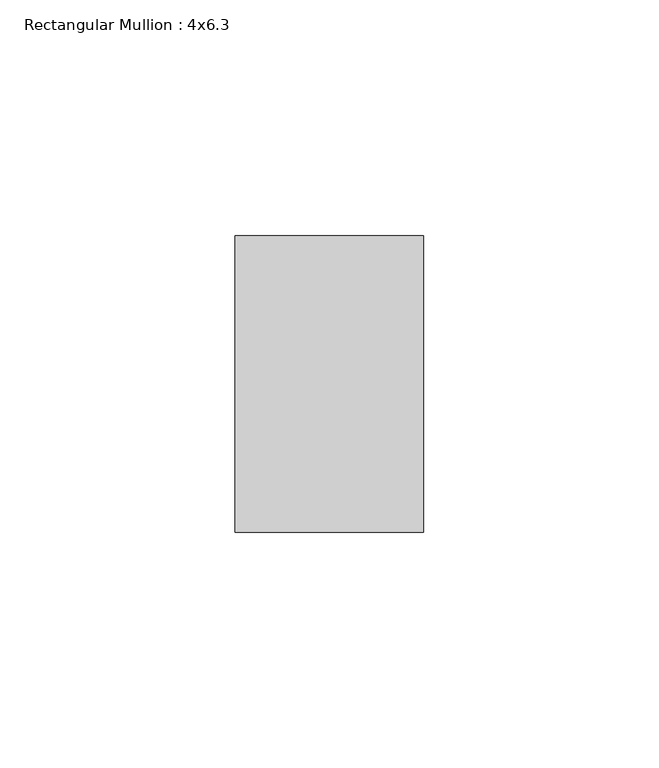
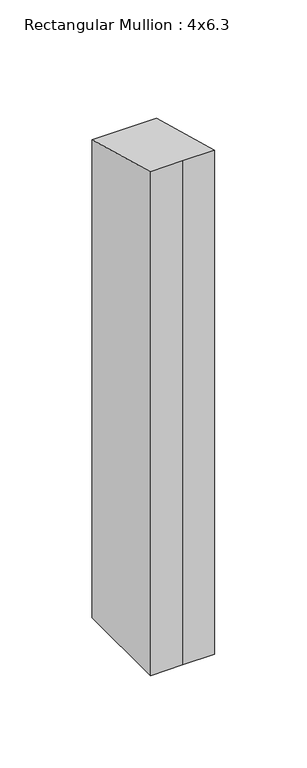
"""IFC4 building model written with IfcOpenShell, lengths in millimetres: member geometry, Rectangular Mullion : 4x6.3."""

import ifcopenshell
import ifcopenshell.guid

model = None  # the IFC model being written
_history = None  # IfcOwnerHistory: only IFC2X3 demands one
_inside = {}  # id of a spatial element -> (the spatial element, [elements in it])
_under = {}  # id of a project, library or spatial element -> (it, [spatial elements below it])
_declared = {}  # id of a project -> (the project, [libraries it declares])
_typed = {}  # id of a type object -> (the type object, [elements of that type])
_made_of = {}  # id of a material, layer set ... -> (it, [elements and type objects made of it])


def new_model(schema):
    """Start an empty IFC model of exactly this schema.

    Asked for "IFC4X3", IfcOpenShell would pick the latest addendum, in which some entities
    have other attributes; the version numbers below select the first issue.
    IFC2X3 requires an IfcOwnerHistory on every rooted entity: one is made here for all.
    """
    global model, _history
    if schema == "IFC4X3":
        model = ifcopenshell.file(schema_version=(4, 3, 0, 0))
    else:
        model = ifcopenshell.file(schema=schema)
    _inside.clear()
    _under.clear()
    _declared.clear()
    _typed.clear()
    _made_of.clear()
    _history = None
    if model.schema == "IFC2X3":
        org = make("IfcOrganization", Name="unknown")
        user = make(
            "IfcPersonAndOrganization",
            ThePerson=make("IfcPerson", FamilyName="unknown"),
            TheOrganization=org,
        )
        app = make(
            "IfcApplication",
            ApplicationDeveloper=org,
            Version="unknown",
            ApplicationFullName="unknown",
            ApplicationIdentifier="unknown",
        )
        _history = make(
            "IfcOwnerHistory",
            OwningUser=user,
            OwningApplication=app,
            ChangeAction="ADDED",
            CreationDate=0,
        )
    return model


def make(cls, **values):
    """One entity of the class cls with the attributes given. An attribute that is None is left unset."""
    return model.create_entity(
        cls, **{name: value for name, value in values.items() if value is not None}
    )


def rooted(cls, **values):
    """An entity with a GlobalId (a new one), such as an element, a storey or a relation."""
    return make(cls, GlobalId=ifcopenshell.guid.new(), OwnerHistory=_history, **values)


def si_unit(unit_type, name, prefix=None):
    """IfcSIUnit, for example si_unit("LENGTHUNIT", "METRE", prefix="MILLI")."""
    return make("IfcSIUnit", UnitType=unit_type, Prefix=prefix, Name=name)


def assignment(units):
    """IfcUnitAssignment: the units of a project."""
    return None if units is None else make("IfcUnitAssignment", Units=units)


def point(xyz):
    """IfcCartesianPoint."""
    return None if xyz is None else make("IfcCartesianPoint", Coordinates=xyz)


def direction(xyz):
    """IfcDirection."""
    return None if xyz is None else make("IfcDirection", DirectionRatios=xyz)


def frame(location, z_axis=None, x_axis=None):
    """IfcAxis2Placement3D, a coordinate frame: its origin and axes. An axis left out is left unset."""
    return make(
        "IfcAxis2Placement3D",
        Location=point(location),
        Axis=direction(z_axis),
        RefDirection=direction(x_axis),
    )


def origin():
    """The frame at (0, 0, 0) with its axes left unset."""
    return frame((0.0, 0.0, 0.0))


def place(relative_to, where):
    """IfcLocalPlacement: puts the frame where relative to a parent placement (None: the world)."""
    return make(
        "IfcLocalPlacement", PlacementRelTo=relative_to, RelativePlacement=where
    )


def context(
    kind, dimensions, precision=None, world=None, true_north=None, identifier=None
):
    """IfcGeometricRepresentationContext, for example the 3D "Model" context."""
    return make(
        "IfcGeometricRepresentationContext",
        ContextIdentifier=identifier,
        ContextType=kind,
        CoordinateSpaceDimension=dimensions,
        Precision=precision,
        WorldCoordinateSystem=world,
        TrueNorth=true_north,
    )


def project(units=None, contexts=None):
    """IfcProject with its units and contexts."""
    return rooted(
        "IfcProject",
        Name="project",
        RepresentationContexts=contexts,
        UnitsInContext=assignment(units),
    )


def spatial(cls, under=None, at=None, **own):
    """A site, building, storey or space (cls), placed at a placement, below another one or the project."""
    s = rooted(cls, ObjectPlacement=at, **own)
    if under is not None:
        _under.setdefault(under.id(), (under, []))[1].append(s)
    return s


def faces_of(points, faces, orient=None, outer=None):
    """IfcFace entities. A face is a list of loops; a loop is a list of indices into points, from 0.

    orient and outer hold one flag for each loop. By default every Orientation is true, the
    first loop of a face is its IfcFaceOuterBound and the others are IfcFaceBound.
    """
    made = []
    for i, loops in enumerate(faces):
        bounds = []
        for j, loop in enumerate(loops):
            is_outer = j == 0 if outer is None else outer[i][j]
            bounds.append(
                make(
                    "IfcFaceOuterBound" if is_outer else "IfcFaceBound",
                    Bound=make("IfcPolyLoop", Polygon=[points[k] for k in loop]),
                    Orientation=True if orient is None else orient[i][j],
                )
            )
        made.append(make("IfcFace", Bounds=bounds))
    return made


def faceted_brep(points, faces, orient=None, outer=None, voids=None):
    """IfcFacetedBrep: a solid bounded by flat faces; with voids (closed shells), ...WithVoids."""
    shared = [point(p) for p in points]
    hull = make("IfcClosedShell", CfsFaces=faces_of(shared, faces, orient, outer))
    if voids is None:
        return make("IfcFacetedBrep", Outer=hull)
    return make(
        "IfcFacetedBrepWithVoids",
        Outer=hull,
        Voids=[
            make(cls, CfsFaces=faces_of(shared, fs, o, b)) for cls, fs, o, b in voids
        ],
    )


def shape(context_of_items, identifier, shape_type, items):
    """IfcShapeRepresentation: the items that make up one representation, for example the "Body"."""
    return make(
        "IfcShapeRepresentation",
        ContextOfItems=context_of_items,
        RepresentationIdentifier=identifier,
        RepresentationType=shape_type,
        Items=items,
    )


def source(mapping_origin, context_of_items, identifier, shape_type, items):
    """IfcRepresentationMap: a shape defined once, which mapped items show again and again."""
    return make(
        "IfcRepresentationMap",
        MappingOrigin=mapping_origin,
        MappedRepresentation=shape(context_of_items, identifier, shape_type, items),
    )


def transform(
    local_origin,
    x_axis=None,
    y_axis=None,
    z_axis=None,
    scale=None,
    scale2=None,
    scale3=None,
    uniform=True,
):
    """IfcCartesianTransformationOperator3D, or its non-uniform kind. x_axis, y_axis, z_axis: its Axis1, 2, 3."""
    if uniform:
        return make(
            "IfcCartesianTransformationOperator3D",
            Axis1=direction(x_axis),
            Axis2=direction(y_axis),
            LocalOrigin=point(local_origin),
            Scale=scale,
            Axis3=direction(z_axis),
        )
    return make(
        "IfcCartesianTransformationOperator3DnonUniform",
        Axis1=direction(x_axis),
        Axis2=direction(y_axis),
        LocalOrigin=point(local_origin),
        Scale=scale,
        Axis3=direction(z_axis),
        Scale2=scale2,
        Scale3=scale3,
    )


def mapped(mapping_source, mapping_target):
    """IfcMappedItem: shows the shape of a source again, moved by a transform."""
    return make(
        "IfcMappedItem", MappingSource=mapping_source, MappingTarget=mapping_target
    )


def made_of(thing, what):
    """Note that an element or type object is made of a material, layer set ...; save() writes the relation."""
    if what is not None:
        _made_of.setdefault(what.id(), (what, []))[1].append(thing)
    return thing


def element(
    cls,
    number,
    at=None,
    inside=None,
    cuts=None,
    type_object=None,
    material=None,
    context=None,
    identifier="Body",
    shape_type=None,
    held_by="IfcProductDefinitionShape",
    body=None,
    shapes=None,
    **own,
):
    """One element of the class cls, such as IfcWall. Its Tag is "e" and its number.

    at: its placement. inside: the storey or other place that contains it. cuts: it is an
    opening in that element (IfcRelVoidsElement). A single representation is given by context,
    identifier, shape_type and body (its items); several are given by shapes. held_by: the class
    of the entity that holds the representations. save() writes the other relations.
    """
    e = rooted(cls, Tag="e%d" % number, ObjectPlacement=at, **own)
    if body is not None:
        shapes = [shape(context, identifier, shape_type, body)]
    if shapes is not None:
        e.Representation = make(held_by, Representations=shapes)
    if inside is not None:
        _inside.setdefault(inside.id(), (inside, []))[1].append(e)
    if cuts is not None:
        rooted(
            "IfcRelVoidsElement", RelatingBuildingElement=cuts, RelatedOpeningElement=e
        )
    if type_object is not None:
        _typed.setdefault(type_object.id(), (type_object, []))[1].append(e)
    return made_of(e, material)


def aggregate(whole, parts):
    """IfcRelAggregates: a whole, such as a stair, and the parts it consists of."""
    return rooted("IfcRelAggregates", RelatingObject=whole, RelatedObjects=parts)


def save(model, path):
    """Write the relations noted so far, then the file.

    IfcRelAggregates (storeys below a building ...), IfcRelContainedInSpatialStructure (elements
    in a storey), IfcRelDefinesByType, IfcRelAssociatesMaterial and IfcRelDeclares: one each for
    every whole, place, type object, material and project.
    """
    for whole, parts in _under.values():
        aggregate(whole, parts)
    for where, things in _inside.values():
        rooted(
            "IfcRelContainedInSpatialStructure",
            RelatedElements=things,
            RelatingStructure=where,
        )
    for kind, things in _typed.values():
        rooted("IfcRelDefinesByType", RelatedObjects=things, RelatingType=kind)
    for what, things in _made_of.values():
        rooted("IfcRelAssociatesMaterial", RelatedObjects=things, RelatingMaterial=what)
    for by, libraries in _declared.values():
        rooted("IfcRelDeclares", RelatingContext=by, RelatedDefinitions=libraries)
    model.write(path)


def rectangular_mullion_4x6_3_3624ddd0(model_context):
    return source(origin(), model_context, "Body", "Brep", [
        faceted_brep([(-20.0, 20.0, -337.9741086), (-20.0, 83.0, -337.9741086), (20.0, 83.0, -337.9741086), (20.0, 20.0, -337.9741086), (0.0, 20.0, -337.9741086), (0.0, 20.0, -5.4283368), (-20.0, 20.0, -5.4283368), (20.0, 20.0, -5.4283368), (20.0, 83.0, -22.5275978), (-20.0, 83.0, -22.5275978)], [[[0, 1, 2, 3, 4]], [[5, 6, 0, 4]], [[7, 5, 4, 3]], [[8, 7, 3, 2]], [[9, 8, 2, 1]], [[6, 9, 1, 0]], [[6, 5, 7, 8, 9]]]),
    ])


if __name__ == "__main__":
    model = new_model("IFC4")
    model_context = context("Model", 3, world=origin())
    ifc_project = project(units=[si_unit("LENGTHUNIT", "METRE", prefix="MILLI")], contexts=[model_context])
    site = spatial("IfcSite", under=ifc_project)
    building = spatial("IfcBuilding", under=site)
    placement = place(None, origin())
    rectangular_mullion_4x6_3_shape = rectangular_mullion_4x6_3_3624ddd0(model_context)
    element("IfcMember", 1, ObjectType="Rectangular Mullion : 4x6.3", at=placement, inside=building, context=model_context, shape_type="MappedRepresentation", body=[
        mapped(rectangular_mullion_4x6_3_shape, transform((0.0, 0.0, 0.0), x_axis=(1.0, 0.0, 0.0), y_axis=(0.0, 1.0, 0.0), z_axis=(0.0, 0.0, 1.0))),
    ])
    save(model, "model.ifc")
